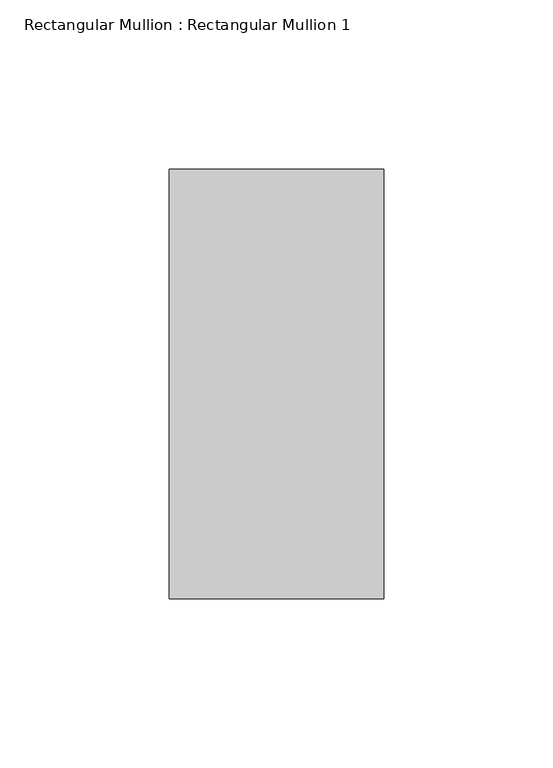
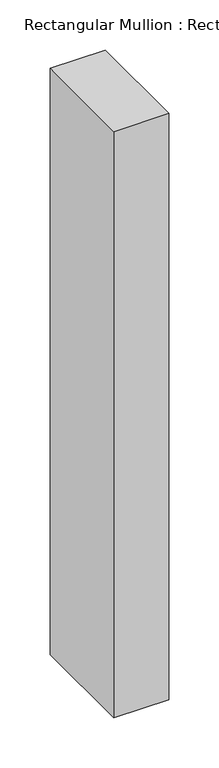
"""IFC4 building model written with IfcOpenShell, lengths in millimetres: member geometry, Rectangular Mullion : Rectangular Mullion 1."""

import ifcopenshell
import ifcopenshell.guid

model = None  # the IFC model being written
_history = None  # IfcOwnerHistory: only IFC2X3 demands one
_inside = {}  # id of a spatial element -> (the spatial element, [elements in it])
_under = {}  # id of a project, library or spatial element -> (it, [spatial elements below it])
_declared = {}  # id of a project -> (the project, [libraries it declares])
_typed = {}  # id of a type object -> (the type object, [elements of that type])
_made_of = {}  # id of a material, layer set ... -> (it, [elements and type objects made of it])


def new_model(schema):
    """Start an empty IFC model of exactly this schema.

    Asked for "IFC4X3", IfcOpenShell would pick the latest addendum, in which some entities
    have other attributes; the version numbers below select the first issue.
    IFC2X3 requires an IfcOwnerHistory on every rooted entity: one is made here for all.
    """
    global model, _history
    if schema == "IFC4X3":
        model = ifcopenshell.file(schema_version=(4, 3, 0, 0))
    else:
        model = ifcopenshell.file(schema=schema)
    _inside.clear()
    _under.clear()
    _declared.clear()
    _typed.clear()
    _made_of.clear()
    _history = None
    if model.schema == "IFC2X3":
        org = make("IfcOrganization", Name="unknown")
        user = make(
            "IfcPersonAndOrganization",
            ThePerson=make("IfcPerson", FamilyName="unknown"),
            TheOrganization=org,
        )
        app = make(
            "IfcApplication",
            ApplicationDeveloper=org,
            Version="unknown",
            ApplicationFullName="unknown",
            ApplicationIdentifier="unknown",
        )
        _history = make(
            "IfcOwnerHistory",
            OwningUser=user,
            OwningApplication=app,
            ChangeAction="ADDED",
            CreationDate=0,
        )
    return model


def make(cls, **values):
    """One entity of the class cls with the attributes given. An attribute that is None is left unset."""
    return model.create_entity(
        cls, **{name: value for name, value in values.items() if value is not None}
    )


def rooted(cls, **values):
    """An entity with a GlobalId (a new one), such as an element, a storey or a relation."""
    return make(cls, GlobalId=ifcopenshell.guid.new(), OwnerHistory=_history, **values)


def si_unit(unit_type, name, prefix=None):
    """IfcSIUnit, for example si_unit("LENGTHUNIT", "METRE", prefix="MILLI")."""
    return make("IfcSIUnit", UnitType=unit_type, Prefix=prefix, Name=name)


def assignment(units):
    """IfcUnitAssignment: the units of a project."""
    return None if units is None else make("IfcUnitAssignment", Units=units)


def point(xyz):
    """IfcCartesianPoint."""
    return None if xyz is None else make("IfcCartesianPoint", Coordinates=xyz)


def direction(xyz):
    """IfcDirection."""
    return None if xyz is None else make("IfcDirection", DirectionRatios=xyz)


def frame(location, z_axis=None, x_axis=None):
    """IfcAxis2Placement3D, a coordinate frame: its origin and axes. An axis left out is left unset."""
    return make(
        "IfcAxis2Placement3D",
        Location=point(location),
        Axis=direction(z_axis),
        RefDirection=direction(x_axis),
    )


def origin():
    """The frame at (0, 0, 0) with its axes left unset."""
    return frame((0.0, 0.0, 0.0))


def place(relative_to, where):
    """IfcLocalPlacement: puts the frame where relative to a parent placement (None: the world)."""
    return make(
        "IfcLocalPlacement", PlacementRelTo=relative_to, RelativePlacement=where
    )


def context(
    kind, dimensions, precision=None, world=None, true_north=None, identifier=None
):
    """IfcGeometricRepresentationContext, for example the 3D "Model" context."""
    return make(
        "IfcGeometricRepresentationContext",
        ContextIdentifier=identifier,
        ContextType=kind,
        CoordinateSpaceDimension=dimensions,
        Precision=precision,
        WorldCoordinateSystem=world,
        TrueNorth=true_north,
    )


def project(units=None, contexts=None):
    """IfcProject with its units and contexts."""
    return rooted(
        "IfcProject",
        Name="project",
        RepresentationContexts=contexts,
        UnitsInContext=assignment(units),
    )


def spatial(cls, under=None, at=None, **own):
    """A site, building, storey or space (cls), placed at a placement, below another one or the project."""
    s = rooted(cls, ObjectPlacement=at, **own)
    if under is not None:
        _under.setdefault(under.id(), (under, []))[1].append(s)
    return s


def polyline(points):
    """IfcPolyline through the points."""
    return make("IfcPolyline", Points=[point(p) for p in points])


def outline(outer, holes=None, kind="AREA"):
    """IfcArbitraryClosedProfileDef: a profile drawn as a closed curve; with holes, ...WithVoids."""
    if holes is None:
        return make("IfcArbitraryClosedProfileDef", ProfileType=kind, OuterCurve=outer)
    return make(
        "IfcArbitraryProfileDefWithVoids",
        ProfileType=kind,
        OuterCurve=outer,
        InnerCurves=holes,
    )


def extrude(swept, where, along, depth):
    """IfcExtrudedAreaSolid: the profile swept, set in the frame where, extruded along a direction by depth."""
    return make(
        "IfcExtrudedAreaSolid",
        SweptArea=swept,
        Position=where,
        ExtrudedDirection=direction(along),
        Depth=depth,
    )


def shape(context_of_items, identifier, shape_type, items):
    """IfcShapeRepresentation: the items that make up one representation, for example the "Body"."""
    return make(
        "IfcShapeRepresentation",
        ContextOfItems=context_of_items,
        RepresentationIdentifier=identifier,
        RepresentationType=shape_type,
        Items=items,
    )


def source(mapping_origin, context_of_items, identifier, shape_type, items):
    """IfcRepresentationMap: a shape defined once, which mapped items show again and again."""
    return make(
        "IfcRepresentationMap",
        MappingOrigin=mapping_origin,
        MappedRepresentation=shape(context_of_items, identifier, shape_type, items),
    )


def transform(
    local_origin,
    x_axis=None,
    y_axis=None,
    z_axis=None,
    scale=None,
    scale2=None,
    scale3=None,
    uniform=True,
):
    """IfcCartesianTransformationOperator3D, or its non-uniform kind. x_axis, y_axis, z_axis: its Axis1, 2, 3."""
    if uniform:
        return make(
            "IfcCartesianTransformationOperator3D",
            Axis1=direction(x_axis),
            Axis2=direction(y_axis),
            LocalOrigin=point(local_origin),
            Scale=scale,
            Axis3=direction(z_axis),
        )
    return make(
        "IfcCartesianTransformationOperator3DnonUniform",
        Axis1=direction(x_axis),
        Axis2=direction(y_axis),
        LocalOrigin=point(local_origin),
        Scale=scale,
        Axis3=direction(z_axis),
        Scale2=scale2,
        Scale3=scale3,
    )


def mapped(mapping_source, mapping_target):
    """IfcMappedItem: shows the shape of a source again, moved by a transform."""
    return make(
        "IfcMappedItem", MappingSource=mapping_source, MappingTarget=mapping_target
    )


def made_of(thing, what):
    """Note that an element or type object is made of a material, layer set ...; save() writes the relation."""
    if what is not None:
        _made_of.setdefault(what.id(), (what, []))[1].append(thing)
    return thing


def element(
    cls,
    number,
    at=None,
    inside=None,
    cuts=None,
    type_object=None,
    material=None,
    context=None,
    identifier="Body",
    shape_type=None,
    held_by="IfcProductDefinitionShape",
    body=None,
    shapes=None,
    **own,
):
    """One element of the class cls, such as IfcWall. Its Tag is "e" and its number.

    at: its placement. inside: the storey or other place that contains it. cuts: it is an
    opening in that element (IfcRelVoidsElement). A single representation is given by context,
    identifier, shape_type and body (its items); several are given by shapes. held_by: the class
    of the entity that holds the representations. save() writes the other relations.
    """
    e = rooted(cls, Tag="e%d" % number, ObjectPlacement=at, **own)
    if body is not None:
        shapes = [shape(context, identifier, shape_type, body)]
    if shapes is not None:
        e.Representation = make(held_by, Representations=shapes)
    if inside is not None:
        _inside.setdefault(inside.id(), (inside, []))[1].append(e)
    if cuts is not None:
        rooted(
            "IfcRelVoidsElement", RelatingBuildingElement=cuts, RelatedOpeningElement=e
        )
    if type_object is not None:
        _typed.setdefault(type_object.id(), (type_object, []))[1].append(e)
    return made_of(e, material)


def aggregate(whole, parts):
    """IfcRelAggregates: a whole, such as a stair, and the parts it consists of."""
    return rooted("IfcRelAggregates", RelatingObject=whole, RelatedObjects=parts)


def save(model, path):
    """Write the relations noted so far, then the file.

    IfcRelAggregates (storeys below a building ...), IfcRelContainedInSpatialStructure (elements
    in a storey), IfcRelDefinesByType, IfcRelAssociatesMaterial and IfcRelDeclares: one each for
    every whole, place, type object, material and project.
    """
    for whole, parts in _under.values():
        aggregate(whole, parts)
    for where, things in _inside.values():
        rooted(
            "IfcRelContainedInSpatialStructure",
            RelatedElements=things,
            RelatingStructure=where,
        )
    for kind, things in _typed.values():
        rooted("IfcRelDefinesByType", RelatedObjects=things, RelatingType=kind)
    for what, things in _made_of.values():
        rooted("IfcRelAssociatesMaterial", RelatedObjects=things, RelatingMaterial=what)
    for by, libraries in _declared.values():
        rooted("IfcRelDeclares", RelatingContext=by, RelatedDefinitions=libraries)
    model.write(path)


def rectangular_mullion_rectangular_mullion_1_13524bf9(model_context):
    return source(origin(), model_context, "Body", "SweptSolid", [
        extrude(outline(polyline([(0.0, 63.5), (0.0, -63.5), (-63.5, -63.5), (-63.5, 63.5), (0.0, 63.5)])), frame((0.0, 0.0, -714.1129571), z_axis=(0.0, 0.0, 1.0), x_axis=(1.0, 0.0, 0.0)), (0.0, 0.0, 1.0), 714.1129571),
    ])


if __name__ == "__main__":
    model = new_model("IFC4")
    model_context = context("Model", 3, world=origin())
    ifc_project = project(units=[si_unit("LENGTHUNIT", "METRE", prefix="MILLI")], contexts=[model_context])
    site = spatial("IfcSite", under=ifc_project)
    building = spatial("IfcBuilding", under=site)
    placement = place(None, origin())
    rectangular_mullion_rectangular_mullion_1_shape = rectangular_mullion_rectangular_mullion_1_13524bf9(model_context)
    element("IfcMember", 1, ObjectType="Rectangular Mullion : Rectangular Mullion 1", at=placement, inside=building, context=model_context, shape_type="MappedRepresentation", body=[
        mapped(rectangular_mullion_rectangular_mullion_1_shape, transform((0.0, 0.0, 0.0), x_axis=(1.0, 0.0, 0.0), y_axis=(0.0, 1.0, 0.0), z_axis=(0.0, 0.0, 1.0))),
    ])
    save(model, "model.ifc")
